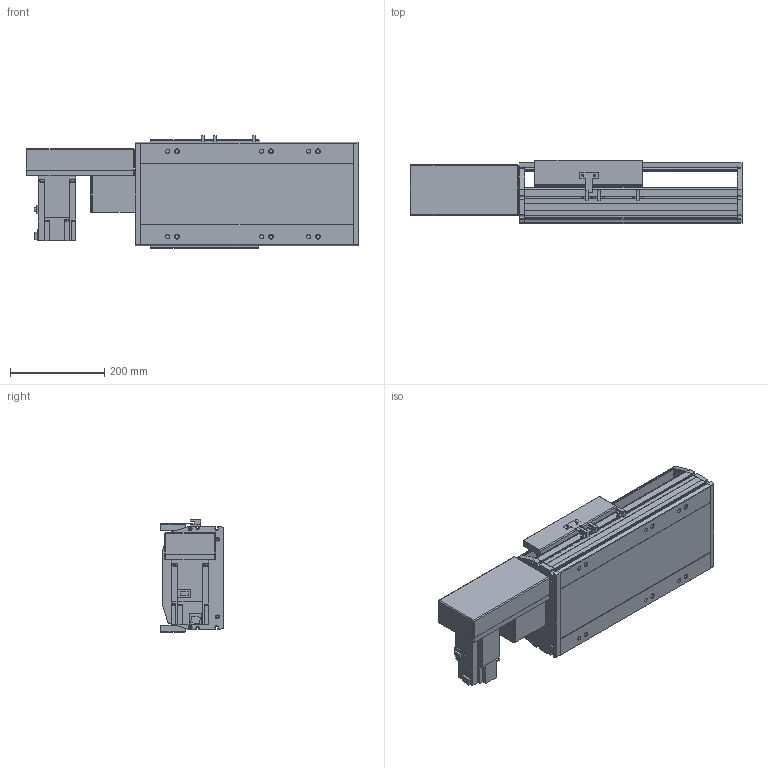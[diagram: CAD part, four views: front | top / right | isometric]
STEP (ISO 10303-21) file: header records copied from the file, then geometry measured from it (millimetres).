
FILE_DESCRIPTION(/* description */ ('STEP AP214'),/* implementation_level */ '2;1');
FILE_NAME(/* name */ 'PBS220-P40-S100-R-T75-C1-N(0)',/* time_stamp */ '2022-06-11T09:59:28+02:00',/* author */ ('License CC BY-ND 4.0'),/* organization */ ('CADENAS'),/* preprocessor_version */ 'ST-DEVELOPER v18.102',/* originating_system */ 'PARTsolutions',/* authorisation */ ' ');
FILE_SCHEMA (('AUTOMOTIVE_DESIGN {1 0 10303 214 3 1 1}'));
Length unit declared in the file: millimetre
Products named in the file (7): PBS220-P40-S100-R-T75-C1-N(0); PBS220_sensor; PBS220_plant; PBS220_sliser; T75-p1; PBS220T-R_motors; PBS220-S100()_body
Assembly tree (8 placements, depth 2):
  PBS220-P40-S100-R-T75-C1-N(0)
    PBS220_sensor  x3
    PBS220_plant
    PBS220_sliser
    T75-p1
    PBS220T-R_motors
    PBS220-S100()_body
Bounding box: 706 x 134 x 238.5 mm (x, y, z)
Volume: 9335463.3 mm3; surface area: 1069235.5 mm2
Topology: 8 solids, 8 shells, 854 faces, 2256 edges, 1468 vertices
Faces by surface type: plane 578, cylinder 246, cone 30
Full cylindrical faces by diameter (mm): 2.013 x4, 4.5 x14, 4.917 x4, 6 x7, 6.647 x8, 8 x10, 8.376 x6, 8.5 x6, 10 x6, 14 x6, 38 x2, 40 x1, 70 x1
Entity records: 24069 total; most frequent: DIRECTION 4185, CARTESIAN_POINT 4162, ORIENTED_EDGE 3926, EDGE_CURVE 1963, AXIS2_PLACEMENT_3D 1425, VERTEX_POINT 1336, LINE 1335, VECTOR 1335
